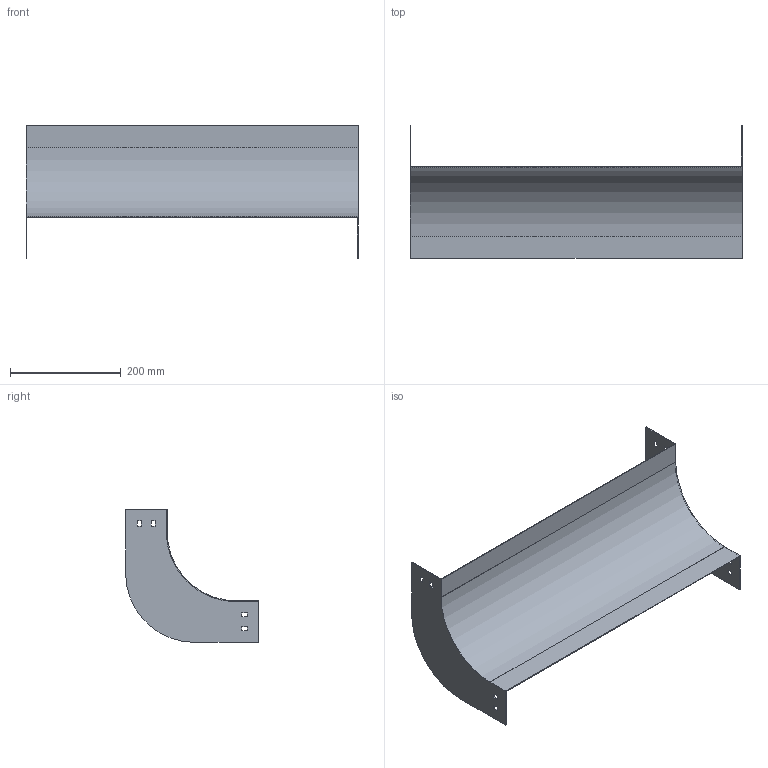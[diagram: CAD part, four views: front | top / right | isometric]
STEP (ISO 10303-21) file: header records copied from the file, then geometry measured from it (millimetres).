
FILE_DESCRIPTION (( 'STEP AP214' ), '1' );
FILE_NAME ('D9_607.step', '2025-07-16T09:09:28', ( '' ), ( '' ), 'SwSTEP 2.0', 'SolidWorks 2023', '' );
FILE_SCHEMA (( 'AUTOMOTIVE_DESIGN' ));
Length unit declared in the file: millimetre
Products named in the file (1): D9_607
Bounding box: 600 x 240 x 240 mm (x, y, z)
Volume: 338811 mm3; surface area: 455672.5 mm2
Topology: 1 solids, 1 shells, 50 faces, 144 edges, 96 vertices
Faces by surface type: plane 46, cylinder 4
Entity records: 1671 total; most frequent: CARTESIAN_POINT 291, ORIENTED_EDGE 288, DIRECTION 254, EDGE_CURVE 144, LINE 136, VECTOR 136, VERTEX_POINT 96, EDGE_LOOP 66
